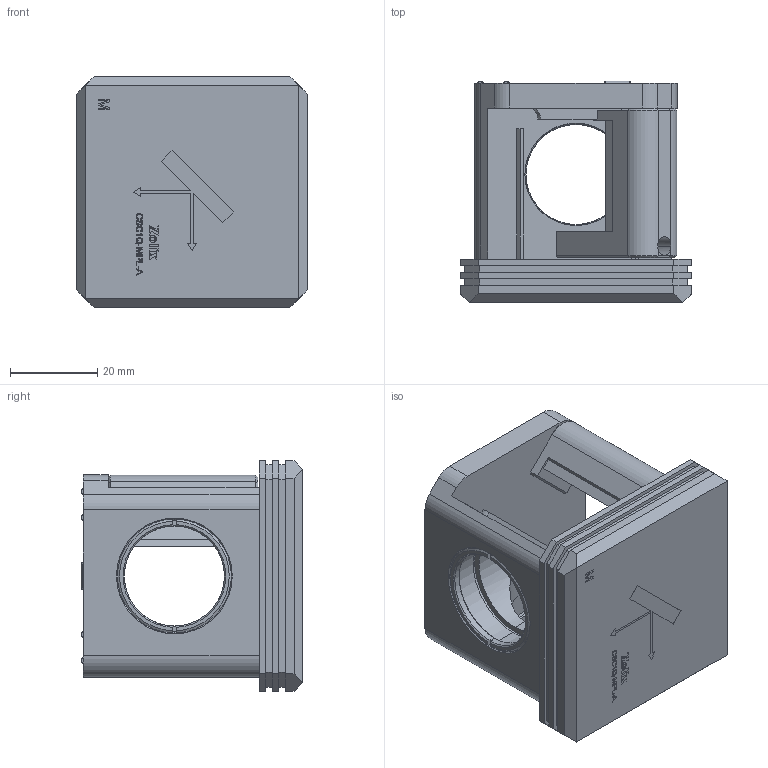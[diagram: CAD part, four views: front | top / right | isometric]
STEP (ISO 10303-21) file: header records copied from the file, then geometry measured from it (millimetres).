
FILE_DESCRIPTION (( 'STEP AP203' ), '1' );
FILE_NAME ('CSC1Q-MPL-A.STEP', '2024-04-28T02:32:30', ( '' ), ( '' ), 'SwSTEP 2.0', 'SolidWorks 2021', '' );
FILE_SCHEMA (( 'CONFIG_CONTROL_DESIGN' ));
Length unit declared in the file: millimetre
Products named in the file (1): CSC1Q-MPL-A
Bounding box: 53 x 50.9 x 53 mm (x, y, z)
Surface area: 22440.7 mm2 (no closed solid volume)
Topology: 0 solids, 28 shells, 376 faces, 1574 edges, 1210 vertices
Faces by surface type: plane 229, cylinder 73, cone 58, torus 12, bspline 4
Entity records: 17925 total; most frequent: CARTESIAN_POINT 5253, DIRECTION 2494, ORIENTED_EDGE 2315, EDGE_CURVE 1568, VERTEX_POINT 1210, LINE 1100, VECTOR 1100, AXIS2_PLACEMENT_3D 697
